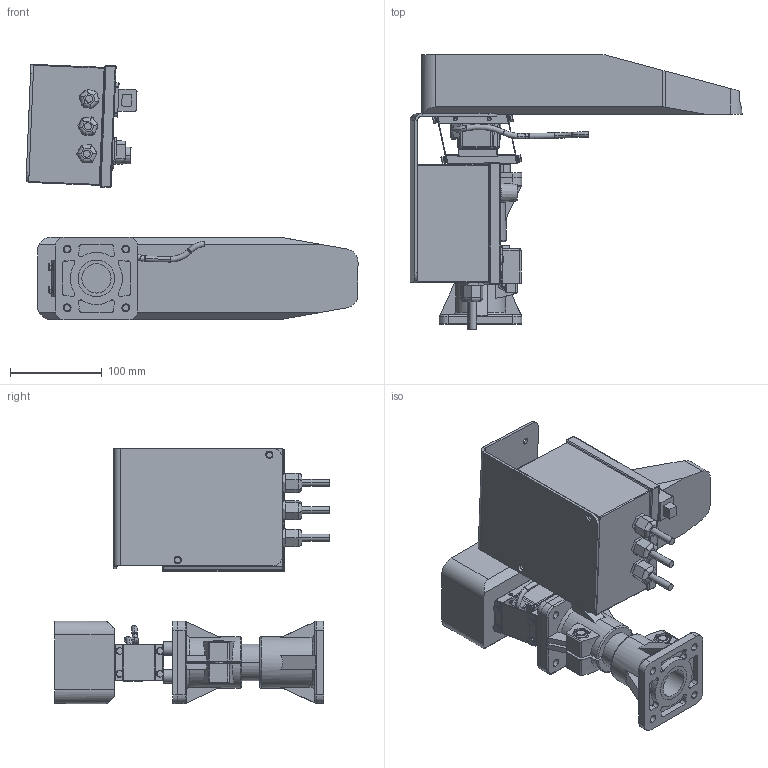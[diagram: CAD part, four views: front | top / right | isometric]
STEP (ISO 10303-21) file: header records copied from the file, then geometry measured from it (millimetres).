
FILE_DESCRIPTION (( 'STEP AP203' ), '1' );
FILE_NAME ('GM000682.STEP', '2025-06-10T13:14:27', ( '' ), ( '' ), 'SwSTEP 2.0', 'SolidWorks 2023', '' );
FILE_SCHEMA (( 'CONFIG_CONTROL_DESIGN' ));
Length unit declared in the file: millimetre
Products named in the file (9): PD000067; CM000432; PD002864; GM000682; PD007562; CE000026; CM001005; SM000081; CM001004
Assembly tree (12 placements, depth 2):
  GM000682
    CM000432  x2
    PD002864
    CM001004
    PD000067
    CE000026
    SM000081
    CM001005  x4
    PD007562
Bounding box: 362.58 x 299.91 x 278.71 mm (x, y, z)
Volume: 2591966.6 mm3; surface area: 507790.1 mm2
Topology: 42 solids, 42 shells, 1589 faces, 3775 edges, 2288 vertices
Faces by surface type: plane 621, cylinder 601, cone 268, torus 66, sphere 20, bspline 13
Entity records: 39734 total; most frequent: CARTESIAN_POINT 8283, DIRECTION 6508, ORIENTED_EDGE 6192, EDGE_CURVE 3096, AXIS2_PLACEMENT_3D 2427, VERTEX_POINT 1884, VECTOR 1654, LINE 1654
